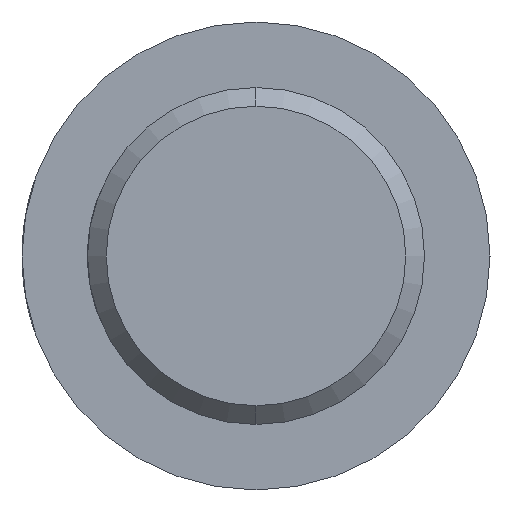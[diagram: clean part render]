
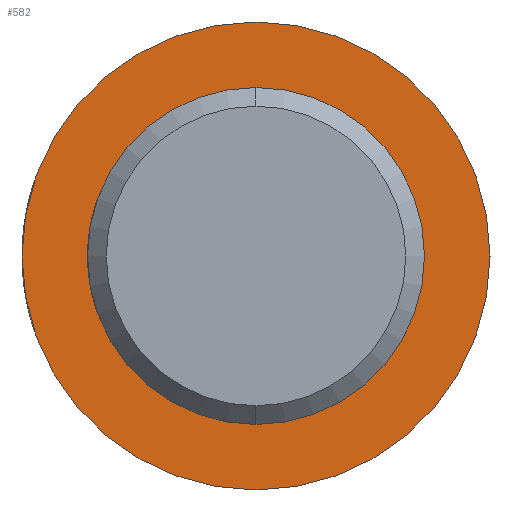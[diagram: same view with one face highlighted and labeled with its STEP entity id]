
A CAD part, left-side view. The second image highlights one B-rep face of the part: STEP entity #582.
In plain terms, the highlighted planar face has unit normal (-1, 0, 0).
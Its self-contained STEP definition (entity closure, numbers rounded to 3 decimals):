
#77 = CARTESIAN_POINT ( 'NONE',  ( -23.5, 0., 0. ) ) ;
#78 = DIRECTION ( 'NONE',  ( -1., 0., 0. ) ) ;
#79 = DIRECTION ( 'NONE',  ( 0., 0., 1. ) ) ;
#81 = CARTESIAN_POINT ( 'NONE',  ( -23.5, 0., 0. ) ) ;
#82 = DIRECTION ( 'NONE',  ( -1., 0., 0. ) ) ;
#83 = DIRECTION ( 'NONE',  ( 0., 0., 1. ) ) ;
#155 = FACE_BOUND ( 'NONE', #261, .T. ) ;
#261 = EDGE_LOOP ( 'NONE', ( #423, #416 ) ) ;
#263 = EDGE_LOOP ( 'NONE', ( #415, #414 ) ) ;
#274 = CARTESIAN_POINT ( 'NONE',  ( -23.5, 0., -12.5 ) ) ;
#336 = VERTEX_POINT ( 'NONE', #274 ) ;
#364 = VERTEX_POINT ( 'NONE', #723 ) ;
#381 = VERTEX_POINT ( 'NONE', #714 ) ;
#383 = VERTEX_POINT ( 'NONE', #1369 ) ;
#414 = ORIENTED_EDGE ( 'NONE', *, *, #1064, .T. ) ;
#415 = ORIENTED_EDGE ( 'NONE', *, *, #1057, .T. ) ;
#416 = ORIENTED_EDGE ( 'NONE', *, *, #1063, .F. ) ;
#423 = ORIENTED_EDGE ( 'NONE', *, *, #1059, .F. ) ;
#582 = ADVANCED_FACE ( 'NONE', ( #155, #1256 ), #1216, .F. ) ;
#617 = AXIS2_PLACEMENT_3D ( 'NONE', #920, #921, #922 ) ;
#619 = AXIS2_PLACEMENT_3D ( 'NONE', #928, #929, #930 ) ;
#621 = AXIS2_PLACEMENT_3D ( 'NONE', #77, #78, #79 ) ;
#622 = AXIS2_PLACEMENT_3D ( 'NONE', #81, #82, #83 ) ;
#714 = CARTESIAN_POINT ( 'NONE',  ( -23.5, 0., 9. ) ) ;
#723 = CARTESIAN_POINT ( 'NONE',  ( -23.5, 0., 12.5 ) ) ;
#745 = CIRCLE ( 'NONE', #621, 9. ) ;
#746 = CIRCLE ( 'NONE', #617, 12.5 ) ;
#747 = CIRCLE ( 'NONE', #619, 9. ) ;
#754 = CIRCLE ( 'NONE', #622, 12.5 ) ;
#920 = CARTESIAN_POINT ( 'NONE',  ( -23.5, 0., 0. ) ) ;
#921 = DIRECTION ( 'NONE',  ( -1., 0., 0. ) ) ;
#922 = DIRECTION ( 'NONE',  ( 0., 0., 1. ) ) ;
#928 = CARTESIAN_POINT ( 'NONE',  ( -23.5, 0., 0. ) ) ;
#929 = DIRECTION ( 'NONE',  ( -1., 0., 0. ) ) ;
#930 = DIRECTION ( 'NONE',  ( 0., 0., 1. ) ) ;
#1057 = EDGE_CURVE ( 'NONE', #364, #336, #746, .T. ) ;
#1059 = EDGE_CURVE ( 'NONE', #381, #383, #747, .T. ) ;
#1063 = EDGE_CURVE ( 'NONE', #383, #381, #745, .T. ) ;
#1064 = EDGE_CURVE ( 'NONE', #336, #364, #754, .T. ) ;
#1211 = CARTESIAN_POINT ( 'NONE',  ( -23.5, 12.5, 0. ) ) ;
#1216 = PLANE ( 'NONE',  #1353 ) ;
#1218 = DIRECTION ( 'NONE',  ( 1., 0., 0. ) ) ;
#1219 = DIRECTION ( 'NONE',  ( 0., 0., -1. ) ) ;
#1256 = FACE_OUTER_BOUND ( 'NONE', #263, .T. ) ;
#1353 = AXIS2_PLACEMENT_3D ( 'NONE', #1211, #1218, #1219 ) ;
#1369 = CARTESIAN_POINT ( 'NONE',  ( -23.5, 0., -9. ) ) ;
